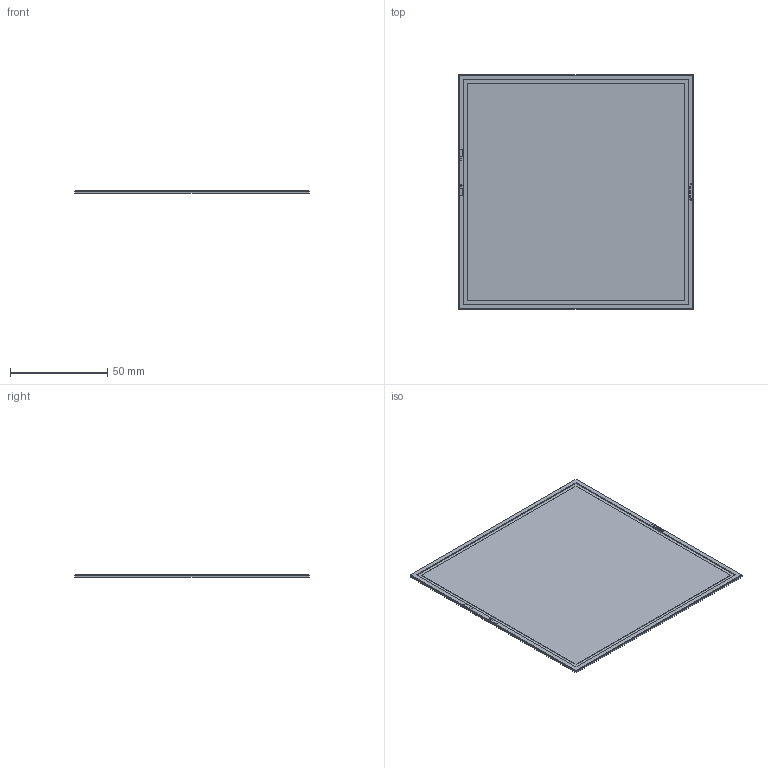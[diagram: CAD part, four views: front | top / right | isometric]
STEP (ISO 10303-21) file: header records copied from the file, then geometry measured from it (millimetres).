
FILE_DESCRIPTION(/* description */ (''),/* implementation_level */ '2;1');
FILE_NAME(/* name */ 'C:\Users\Jörg\Documents\001-Privat\Projekt\Philips\BCOL\Design_Oled\FL300_Brite\FL300_Brite_ww-N_customer_version_9254.000.11400\9254.000.11400-01.stp',/* time_stamp */ '2014-10-01T13:10:22+02:00',/* author */ ('Jörg'),/* organization */ (''),/* preprocessor_version */ 'ST-DEVELOPER v15.2',/* originating_system */ 'Autodesk Inventor 2014',/* authorisation */ '');
FILE_SCHEMA (('AUTOMOTIVE_DESIGN { 1 0 10303 214 3 1 1 }'));
Length unit declared in the file: millimetre
Products named in the file (5): Bauteil_01-01; Bauteil_02-01; Bauteil_05-01; Bauteil_06-01; 9254.000.11400-01
Bounding box: 120.5 x 120.5 x 1.36 mm (x, y, z)
Volume: 15912.8 mm3; surface area: 86166.1 mm2
Topology: 4 solids, 4 shells, 99 faces, 240 edges, 160 vertices
Faces by surface type: plane 99
Entity records: 3037 total; most frequent: CARTESIAN_POINT 508, ORIENTED_EDGE 480, DIRECTION 456, LINE 240, VECTOR 240, EDGE_CURVE 240, VERTEX_POINT 160, EDGE_LOOP 112
